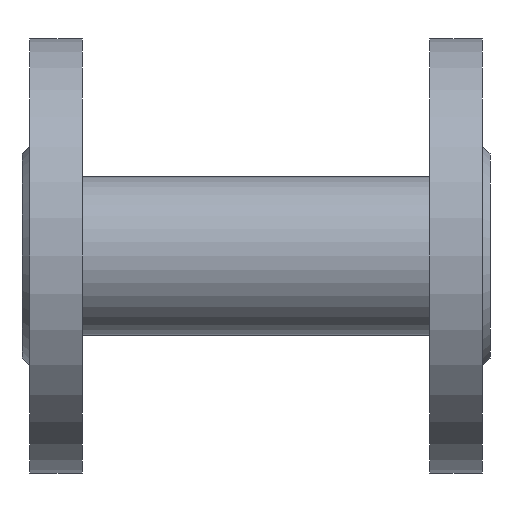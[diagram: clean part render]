
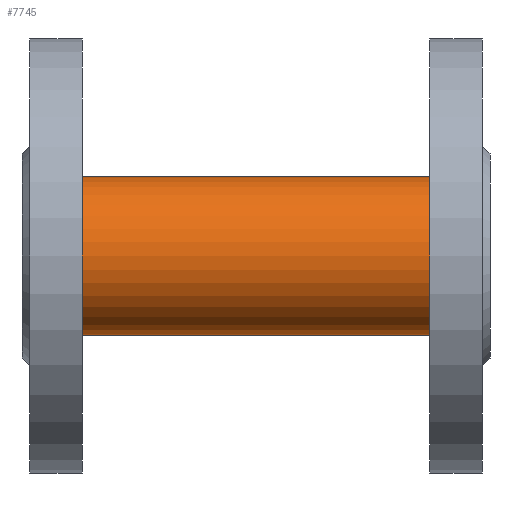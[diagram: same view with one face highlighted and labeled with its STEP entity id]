
A CAD part, front view. The second image highlights one B-rep face of the part: STEP entity #7745.
In plain terms, the highlighted cylindrical face has radius 21 mm (diameter 42 mm), a full revolution.
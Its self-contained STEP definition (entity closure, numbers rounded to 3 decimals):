
#2623=LINE('',#40535,#4459);
#2624=LINE('',#40541,#4460);
#4459=VECTOR('',#32820,1.);
#4460=VECTOR('',#32825,1.);
#6534=ELLIPSE('',#29966,29.698,21.);
#6535=ELLIPSE('',#29967,29.698,21.);
#6536=ELLIPSE('',#29968,29.698,21.);
#6537=ELLIPSE('',#29969,29.698,21.);
#7063=CYLINDRICAL_SURFACE('',#29972,21.);
#7745=ADVANCED_FACE('',(#10513,#10514,#10515),#7063,.T.);
#10513=FACE_BOUND('',#12007,.T.);
#10514=FACE_BOUND('',#12008,.T.);
#10515=FACE_BOUND('',#12009,.T.);
#12007=EDGE_LOOP('',(#14675,#14676,#14677,#14678,#14679,#14680));
#12008=EDGE_LOOP('',(#14681));
#12009=EDGE_LOOP('',(#14682));
#14675=ORIENTED_EDGE('',*,*,#24947,.T.);
#14676=ORIENTED_EDGE('',*,*,#24948,.T.);
#14677=ORIENTED_EDGE('',*,*,#24949,.T.);
#14678=ORIENTED_EDGE('',*,*,#24950,.T.);
#14679=ORIENTED_EDGE('',*,*,#24951,.T.);
#14680=ORIENTED_EDGE('',*,*,#24952,.T.);
#14681=ORIENTED_EDGE('',*,*,#24953,.F.);
#14682=ORIENTED_EDGE('',*,*,#24954,.F.);
#22257=VERTEX_POINT('',#40531);
#22258=VERTEX_POINT('',#40532);
#22259=VERTEX_POINT('',#40534);
#22260=VERTEX_POINT('',#40536);
#22261=VERTEX_POINT('',#40538);
#22262=VERTEX_POINT('',#40540);
#22263=VERTEX_POINT('',#40543);
#22264=VERTEX_POINT('',#40545);
#24947=EDGE_CURVE('',#22257,#22258,#6534,.T.);
#24948=EDGE_CURVE('',#22258,#22259,#6535,.T.);
#24949=EDGE_CURVE('',#22259,#22260,#2623,.T.);
#24950=EDGE_CURVE('',#22260,#22261,#6536,.T.);
#24951=EDGE_CURVE('',#22261,#22262,#6537,.T.);
#24952=EDGE_CURVE('',#22262,#22257,#2624,.T.);
#24953=EDGE_CURVE('',#22263,#22263,#28745,.T.);
#24954=EDGE_CURVE('',#22264,#22264,#28746,.T.);
#28745=CIRCLE('',#29970,21.);
#28746=CIRCLE('',#29971,21.);
#29966=AXIS2_PLACEMENT_3D('',#40530,#32816,#32817);
#29967=AXIS2_PLACEMENT_3D('',#40533,#32818,#32819);
#29968=AXIS2_PLACEMENT_3D('',#40537,#32821,#32822);
#29969=AXIS2_PLACEMENT_3D('',#40539,#32823,#32824);
#29970=AXIS2_PLACEMENT_3D('',#40542,#32826,#32827);
#29971=AXIS2_PLACEMENT_3D('',#40544,#32828,#32829);
#29972=AXIS2_PLACEMENT_3D('',#40546,#32830,#32831);
#32816=DIRECTION('',(-0.707,-0.707,0.));
#32817=DIRECTION('',(-0.707,0.707,0.));
#32818=DIRECTION('',(-0.707,-0.707,0.));
#32819=DIRECTION('',(-0.707,0.707,0.));
#32820=DIRECTION('',(1.,0.,0.));
#32821=DIRECTION('',(0.707,-0.707,0.));
#32822=DIRECTION('',(-0.707,-0.707,0.));
#32823=DIRECTION('',(0.707,-0.707,0.));
#32824=DIRECTION('',(-0.707,-0.707,0.));
#32825=DIRECTION('',(-1.,0.,0.));
#32826=DIRECTION('',(1.,0.,0.));
#32827=DIRECTION('',(0.,0.,1.));
#32828=DIRECTION('',(-1.,0.,0.));
#32829=DIRECTION('',(0.,0.,-1.));
#32830=DIRECTION('',(-1.,0.,0.));
#32831=DIRECTION('',(0.,0.,1.));
#40530=CARTESIAN_POINT('',(40.,-17.49,580.5));
#40531=CARTESIAN_POINT('',(20.,2.51,586.903));
#40532=CARTESIAN_POINT('',(19.,3.51,580.5));
#40533=CARTESIAN_POINT('',(40.,-17.49,580.5));
#40534=CARTESIAN_POINT('',(20.,2.51,574.097));
#40535=CARTESIAN_POINT('',(76.,2.51,574.097));
#40536=CARTESIAN_POINT('',(70.,2.51,574.097));
#40537=CARTESIAN_POINT('',(50.,-17.49,580.5));
#40538=CARTESIAN_POINT('',(71.,3.51,580.5));
#40539=CARTESIAN_POINT('',(50.,-17.49,580.5));
#40540=CARTESIAN_POINT('',(70.,2.51,586.903));
#40541=CARTESIAN_POINT('',(76.,2.51,586.903));
#40542=CARTESIAN_POINT('',(91.,-17.49,580.5));
#40543=CARTESIAN_POINT('',(91.,-17.49,601.5));
#40544=CARTESIAN_POINT('',(-1.,-17.49,580.5));
#40545=CARTESIAN_POINT('',(-1.,-17.49,559.5));
#40546=CARTESIAN_POINT('',(76.,-17.49,580.5));
